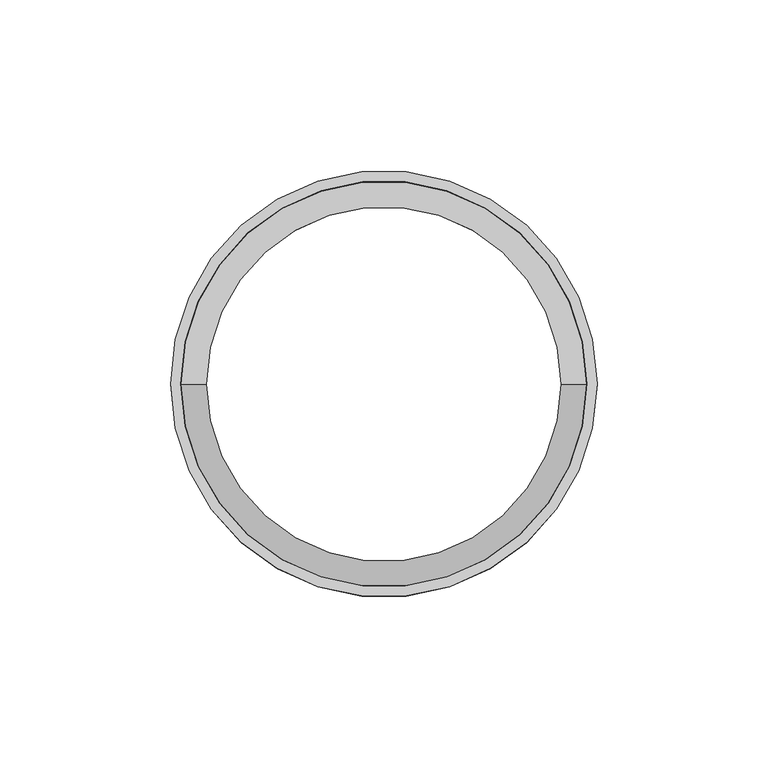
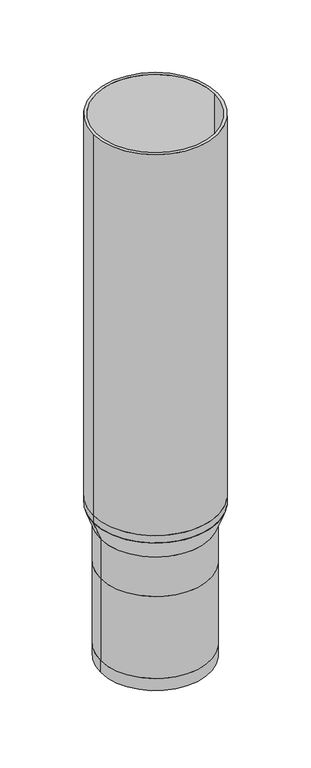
"""IFC4 building model written with IfcOpenShell, lengths in millimetres: pipe fitting geometry, Superdrain Concealed Trap extension : Superdrain Concealed Trap extension DN 110."""

from ifc_helpers import new_model, si_unit, point, frame, origin, origin_with_axes, origin_2d, place, context, project, spatial, polyline, circle_curve, trimmed, segment, composite_curve, outline, extrude, source, transform, mapped, element, save
from ifc_brep_helpers import plane_surface, revolved_surface, advanced_brep


def pipe_fitting_0ed91284(model_context):
    return source(origin(), model_context, "Body", "SolidModel", [
        advanced_brep(
        [(62.5, 0.0, 162.0), (-62.5, 0.0, 162.0), (-59.5, 0.0, 162.0), (59.5, 0.0, 162.0), (55.0, 0.0, 142.0), (-55.0, 0.0, 142.0), (52.0, 0.0, 142.0), (-52.0, 0.0, 142.0)],
        [
            (0, 1, circle_curve(frame((0.0, 0.0, 162.0), z_axis=(0.0, 0.0, 1.0), x_axis=(-1.0, 0.0, 0.0)), 62.5)),
            (1, 2),
            (2, 3, circle_curve(frame((0.0, 0.0, 162.0), z_axis=(0.0, 0.0, -1.0), x_axis=(-1.0, 0.0, 0.0)), 59.5)),
            (3, 0),
            (1, 0, circle_curve(frame((0.0, 0.0, 162.0), z_axis=(0.0, 0.0, 1.0), x_axis=(-1.0, 0.0, 0.0)), 62.5)),
            (3, 2, circle_curve(frame((0.0, 0.0, 162.0), z_axis=(0.0, 0.0, -1.0), x_axis=(-1.0, 0.0, 0.0)), 59.5)),
            (4, 5, circle_curve(frame((0.0, 0.0, 142.0), z_axis=(0.0, 0.0, 1.0), x_axis=(-1.0, 0.0, 0.0)), 55.0)),
            (5, 1),
            (0, 4),
            (5, 4, circle_curve(frame((0.0, 0.0, 142.0), z_axis=(0.0, 0.0, 1.0), x_axis=(-1.0, 0.0, 0.0)), 55.0)),
            (6, 7, circle_curve(frame((0.0, 0.0, 142.0), z_axis=(0.0, 0.0, 1.0), x_axis=(-1.0, 0.0, 0.0)), 52.0)),
            (7, 5),
            (4, 6),
            (7, 6, circle_curve(frame((0.0, 0.0, 142.0), z_axis=(0.0, 0.0, 1.0), x_axis=(-1.0, 0.0, 0.0)), 52.0)),
            (2, 7),
            (6, 3),
        ],
        [
            plane_surface(frame((0.0, 0.0, 162.0), z_axis=(0.0, 0.0, 1.0), x_axis=(-1.0, 0.0, 0.0))),
            revolved_surface(polyline([(-62.5, 0.0, 162.0), (-55.0, 0.0, 142.0)]), (0.0, 0.0, -78.0), (0.0, 0.0, -1.0)),
            plane_surface(frame((0.0, 0.0, 142.0), z_axis=(0.0, 0.0, -1.0), x_axis=(-1.0, 0.0, 0.0))),
            revolved_surface(polyline([(-52.0, 0.0, 142.0), (-59.5, 0.0, 162.0)]), (0.0, 0.0, -78.0), (0.0, 0.0, -1.0)),
        ],
        [
            (0, [[1, 2, 3, 4]]),
            (0, [[5, -4, 6, -2]]),
            (1, [[7, 8, -1, 9]]),
            (1, [[10, -9, -5, -8]]),
            (2, [[11, 12, -7, 13]]),
            (2, [[14, -13, -10, -12]]),
            (3, [[-3, 15, -11, 16]]),
            (3, [[-6, -16, -14, -15]]),
        ],
    ),
        extrude(outline(composite_curve([segment(trimmed(circle_curve(origin_2d(), 62.5), [point((62.5, 0.0))], [point((-62.5, 0.0))], False, "CARTESIAN"), True, "CONTINUOUS"), segment(trimmed(circle_curve(origin_2d(), 62.5), [point((-62.5, 0.0))], [point((62.5, 0.0))], False, "CARTESIAN"), True, "CONTINUOUS")], self_intersect=False), holes=[composite_curve([segment(trimmed(circle_curve(origin_2d(), 59.5), [point((59.5, 0.0))], [point((-59.5, 0.0))], True, "CARTESIAN"), True, "CONTINUOUS"), segment(trimmed(circle_curve(origin_2d(), 59.5), [point((-59.5, 0.0))], [point((59.5, 0.0))], True, "CARTESIAN"), True, "CONTINUOUS")], self_intersect=False)]), frame((0.0, 0.0, 170.0), z_axis=(0.0, 0.0, 1.0), x_axis=(1.0, 0.0, 0.0)), (0.0, 0.0, 1.0), 405.0),
        extrude(outline(composite_curve([segment(trimmed(circle_curve(origin_2d(), 62.5), [point((62.5, 0.0))], [point((-62.5, 0.0))], False, "CARTESIAN"), True, "CONTINUOUS"), segment(trimmed(circle_curve(origin_2d(), 62.5), [point((-62.5, 0.0))], [point((62.5, 0.0))], False, "CARTESIAN"), True, "CONTINUOUS")], self_intersect=False), holes=[composite_curve([segment(trimmed(circle_curve(origin_2d(), 59.5), [point((59.5, 0.0))], [point((-59.5, 0.0))], True, "CARTESIAN"), True, "CONTINUOUS"), segment(trimmed(circle_curve(origin_2d(), 59.5), [point((-59.5, 0.0))], [point((59.5, 0.0))], True, "CARTESIAN"), True, "CONTINUOUS")], self_intersect=False)]), frame((0.0, 0.0, 162.0), z_axis=(0.0, 0.0, 1.0), x_axis=(1.0, 0.0, 0.0)), (0.0, 0.0, 1.0), 8.0),
        extrude(outline(composite_curve([segment(trimmed(circle_curve(origin_2d(), 55.0), [point((55.0, 0.0))], [point((-55.0, 0.0))], False, "CARTESIAN"), True, "CONTINUOUS"), segment(trimmed(circle_curve(origin_2d(), 55.0), [point((-55.0, 0.0))], [point((55.0, 0.0))], False, "CARTESIAN"), True, "CONTINUOUS")], self_intersect=False), holes=[composite_curve([segment(trimmed(circle_curve(origin_2d(), 52.0), [point((52.0, 0.0))], [point((-52.0, 0.0))], True, "CARTESIAN"), True, "CONTINUOUS"), segment(trimmed(circle_curve(origin_2d(), 52.0), [point((-52.0, 0.0))], [point((52.0, 0.0))], True, "CARTESIAN"), True, "CONTINUOUS")], self_intersect=False)]), frame((0.0, 0.0, 100.0), z_axis=(0.0, 0.0, 1.0), x_axis=(1.0, 0.0, 0.0)), (0.0, 0.0, 1.0), 42.0),
        extrude(outline(composite_curve([segment(trimmed(circle_curve(origin_2d(), 55.0), [point((55.0, 0.0))], [point((-55.0, 0.0))], False, "CARTESIAN"), True, "CONTINUOUS"), segment(trimmed(circle_curve(origin_2d(), 55.0), [point((-55.0, 0.0))], [point((55.0, 0.0))], False, "CARTESIAN"), True, "CONTINUOUS")], self_intersect=False), holes=[composite_curve([segment(trimmed(circle_curve(origin_2d(), 52.0), [point((52.0, 0.0))], [point((-52.0, 0.0))], True, "CARTESIAN"), True, "CONTINUOUS"), segment(trimmed(circle_curve(origin_2d(), 52.0), [point((-52.0, 0.0))], [point((52.0, 0.0))], True, "CARTESIAN"), True, "CONTINUOUS")], self_intersect=False)]), frame((0.0, 0.0, 12.7902896), z_axis=(0.0, 0.0, 1.0), x_axis=(1.0, 0.0, 0.0)), (0.0, 0.0, 1.0), 87.2097104),
        extrude(outline(composite_curve([segment(trimmed(circle_curve(origin_2d(), 55.0), [point((-55.0, 0.0))], [point((55.0, 0.0))], False, "CARTESIAN"), True, "CONTINUOUS"), segment(trimmed(circle_curve(origin_2d(), 55.0), [point((55.0, 0.0))], [point((-55.0, 0.0))], False, "CARTESIAN"), True, "CONTINUOUS")], self_intersect=False), holes=[composite_curve([segment(trimmed(circle_curve(origin_2d(), 52.0), [point((-52.0, 0.0))], [point((52.0, 0.0))], True, "CARTESIAN"), True, "CONTINUOUS"), segment(trimmed(circle_curve(origin_2d(), 52.0), [point((52.0, 0.0))], [point((-52.0, 0.0))], True, "CARTESIAN"), True, "CONTINUOUS")], self_intersect=False)]), origin_with_axes(), (0.0, 0.0, 1.0), 12.7902896),
    ])


if __name__ == "__main__":
    model = new_model("IFC4")
    model_context = context("Model", 3, world=origin())
    ifc_project = project(units=[si_unit("LENGTHUNIT", "METRE", prefix="MILLI")], contexts=[model_context])
    site = spatial("IfcSite", under=ifc_project)
    building = spatial("IfcBuilding", under=site)
    placement = place(None, origin())
    pipe_fitting_shape = pipe_fitting_0ed91284(model_context)
    element("IfcPipeFitting", 1, ObjectType="Superdrain Concealed Trap extension : Superdrain Concealed Trap extension DN 110", at=placement, inside=building, context=model_context, shape_type="MappedRepresentation", body=[
        mapped(pipe_fitting_shape, transform((0.0, 0.0, 0.0), x_axis=(1.0, 0.0, 0.0), y_axis=(0.0, 1.0, 0.0), z_axis=(0.0, 0.0, 1.0))),
    ])
    save(model, "model.ifc")
